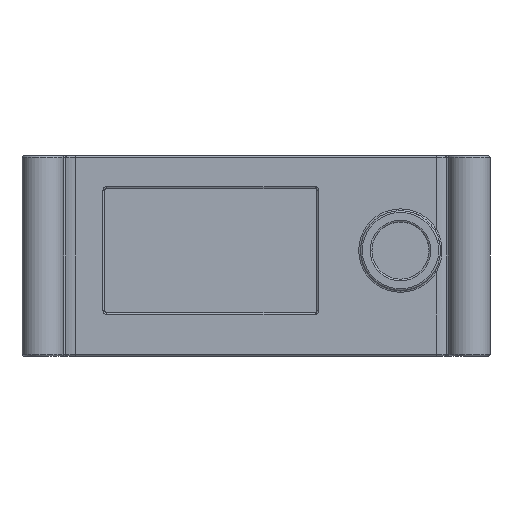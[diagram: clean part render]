
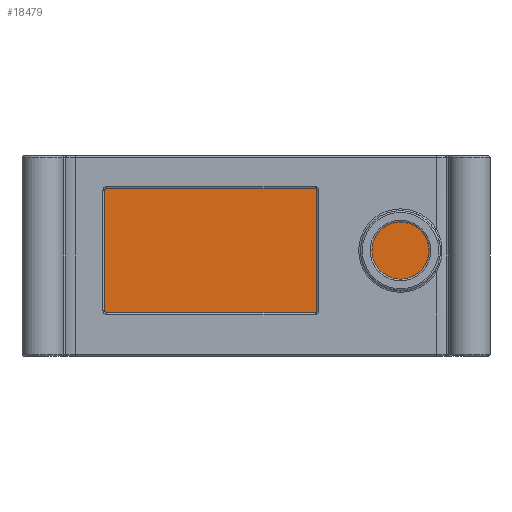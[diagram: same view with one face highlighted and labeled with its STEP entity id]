
A CAD part, left-side view. The second image highlights one B-rep face of the part: STEP entity #18479.
In plain terms, the highlighted planar face has unit normal (-1, 0, 0).
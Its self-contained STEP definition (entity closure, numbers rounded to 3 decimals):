
#2609 = CYLINDRICAL_SURFACE('',#2610,0.4);
#2610 = AXIS2_PLACEMENT_3D('',#2611,#2612,#2613);
#2611 = CARTESIAN_POINT('',(-151.6,-40.,44.));
#2612 = DIRECTION('',(0.,1.,0.));
#2613 = DIRECTION('',(0.,-0.,1.));
#8803 = VERTEX_POINT('',#8804);
#8804 = CARTESIAN_POINT('',(-152.,40.,44.));
#8862 = CYLINDRICAL_SURFACE('',#8863,5.);
#8863 = AXIS2_PLACEMENT_3D('',#8864,#8865,#8866);
#8864 = CARTESIAN_POINT('',(-157.,40.,2.4));
#8865 = DIRECTION('',(0.,0.,1.));
#8866 = DIRECTION('',(1.,0.,0.));
#8878 = VERTEX_POINT('',#8879);
#8879 = CARTESIAN_POINT('',(-152.,-40.,44.));
#8899 = EDGE_CURVE('',#8878,#8803,#8900,.T.);
#8900 = SURFACE_CURVE('',#8901,(#8905,#8912),.PCURVE_S1.);
#8901 = LINE('',#8902,#8903);
#8902 = CARTESIAN_POINT('',(-152.,-40.,44.));
#8903 = VECTOR('',#8904,1.);
#8904 = DIRECTION('',(0.,1.,0.));
#8905 = PCURVE('',#2609,#8906);
#8906 = DEFINITIONAL_REPRESENTATION('',(#8907),#8911);
#8907 = LINE('',#8908,#8909);
#8908 = CARTESIAN_POINT('',(-1.571,0.));
#8909 = VECTOR('',#8910,1.);
#8910 = DIRECTION('',(-0.,1.));
#8911 = ( GEOMETRIC_REPRESENTATION_CONTEXT(2) 
PARAMETRIC_REPRESENTATION_CONTEXT() REPRESENTATION_CONTEXT('2D SPACE',''
  ) );
#8912 = PCURVE('',#8913,#8918);
#8913 = PLANE('',#8914);
#8914 = AXIS2_PLACEMENT_3D('',#8915,#8916,#8917);
#8915 = CARTESIAN_POINT('',(-152.,-45.,2.4));
#8916 = DIRECTION('',(1.,0.,0.));
#8917 = DIRECTION('',(0.,0.,1.));
#8918 = DEFINITIONAL_REPRESENTATION('',(#8919),#8923);
#8919 = LINE('',#8920,#8921);
#8920 = CARTESIAN_POINT('',(41.6,-5.));
#8921 = VECTOR('',#8922,1.);
#8922 = DIRECTION('',(0.,-1.));
#8923 = ( GEOMETRIC_REPRESENTATION_CONTEXT(2) 
PARAMETRIC_REPRESENTATION_CONTEXT() REPRESENTATION_CONTEXT('2D SPACE',''
  ) );
#9022 = CYLINDRICAL_SURFACE('',#9023,5.);
#9023 = AXIS2_PLACEMENT_3D('',#9024,#9025,#9026);
#9024 = CARTESIAN_POINT('',(-157.,-40.,2.4));
#9025 = DIRECTION('',(0.,0.,1.));
#9026 = DIRECTION('',(1.,0.,0.));
#18406 = EDGE_CURVE('',#18407,#8803,#18409,.T.);
#18407 = VERTEX_POINT('',#18408);
#18408 = CARTESIAN_POINT('',(-152.,40.,2.8));
#18409 = SURFACE_CURVE('',#18410,(#18414,#18421),.PCURVE_S1.);
#18410 = LINE('',#18411,#18412);
#18411 = CARTESIAN_POINT('',(-152.,40.,2.4));
#18412 = VECTOR('',#18413,1.);
#18413 = DIRECTION('',(0.,0.,1.));
#18414 = PCURVE('',#8862,#18415);
#18415 = DEFINITIONAL_REPRESENTATION('',(#18416),#18420);
#18416 = LINE('',#18417,#18418);
#18417 = CARTESIAN_POINT('',(0.,0.));
#18418 = VECTOR('',#18419,1.);
#18419 = DIRECTION('',(0.,1.));
#18420 = ( GEOMETRIC_REPRESENTATION_CONTEXT(2) 
PARAMETRIC_REPRESENTATION_CONTEXT() REPRESENTATION_CONTEXT('2D SPACE',''
  ) );
#18421 = PCURVE('',#8913,#18422);
#18422 = DEFINITIONAL_REPRESENTATION('',(#18423),#18427);
#18423 = LINE('',#18424,#18425);
#18424 = CARTESIAN_POINT('',(0.,-85.));
#18425 = VECTOR('',#18426,1.);
#18426 = DIRECTION('',(1.,0.));
#18427 = ( GEOMETRIC_REPRESENTATION_CONTEXT(2) 
PARAMETRIC_REPRESENTATION_CONTEXT() REPRESENTATION_CONTEXT('2D SPACE',''
  ) );
#18479 = ADVANCED_FACE('',(#18480),#8913,.F.);
#18480 = FACE_BOUND('',#18481,.F.);
#18481 = EDGE_LOOP('',(#18482,#18483,#18484,#18507));
#18482 = ORIENTED_EDGE('',*,*,#18406,.T.);
#18483 = ORIENTED_EDGE('',*,*,#8899,.F.);
#18484 = ORIENTED_EDGE('',*,*,#18485,.F.);
#18485 = EDGE_CURVE('',#18486,#8878,#18488,.T.);
#18486 = VERTEX_POINT('',#18487);
#18487 = CARTESIAN_POINT('',(-152.,-40.,2.8));
#18488 = SURFACE_CURVE('',#18489,(#18493,#18500),.PCURVE_S1.);
#18489 = LINE('',#18490,#18491);
#18490 = CARTESIAN_POINT('',(-152.,-40.,2.4));
#18491 = VECTOR('',#18492,1.);
#18492 = DIRECTION('',(0.,0.,1.));
#18493 = PCURVE('',#8913,#18494);
#18494 = DEFINITIONAL_REPRESENTATION('',(#18495),#18499);
#18495 = LINE('',#18496,#18497);
#18496 = CARTESIAN_POINT('',(0.,-5.));
#18497 = VECTOR('',#18498,1.);
#18498 = DIRECTION('',(1.,0.));
#18499 = ( GEOMETRIC_REPRESENTATION_CONTEXT(2) 
PARAMETRIC_REPRESENTATION_CONTEXT() REPRESENTATION_CONTEXT('2D SPACE',''
  ) );
#18500 = PCURVE('',#9022,#18501);
#18501 = DEFINITIONAL_REPRESENTATION('',(#18502),#18506);
#18502 = LINE('',#18503,#18504);
#18503 = CARTESIAN_POINT('',(-0.,0.));
#18504 = VECTOR('',#18505,1.);
#18505 = DIRECTION('',(-0.,1.));
#18506 = ( GEOMETRIC_REPRESENTATION_CONTEXT(2) 
PARAMETRIC_REPRESENTATION_CONTEXT() REPRESENTATION_CONTEXT('2D SPACE',''
  ) );
#18507 = ORIENTED_EDGE('',*,*,#18508,.T.);
#18508 = EDGE_CURVE('',#18486,#18407,#18509,.T.);
#18509 = SURFACE_CURVE('',#18510,(#18514,#18521),.PCURVE_S1.);
#18510 = LINE('',#18511,#18512);
#18511 = CARTESIAN_POINT('',(-152.,-40.,2.8));
#18512 = VECTOR('',#18513,1.);
#18513 = DIRECTION('',(0.,1.,0.));
#18514 = PCURVE('',#8913,#18515);
#18515 = DEFINITIONAL_REPRESENTATION('',(#18516),#18520);
#18516 = LINE('',#18517,#18518);
#18517 = CARTESIAN_POINT('',(0.4,-5.));
#18518 = VECTOR('',#18519,1.);
#18519 = DIRECTION('',(0.,-1.));
#18520 = ( GEOMETRIC_REPRESENTATION_CONTEXT(2) 
PARAMETRIC_REPRESENTATION_CONTEXT() REPRESENTATION_CONTEXT('2D SPACE',''
  ) );
#18521 = PCURVE('',#18522,#18527);
#18522 = CYLINDRICAL_SURFACE('',#18523,0.4);
#18523 = AXIS2_PLACEMENT_3D('',#18524,#18525,#18526);
#18524 = CARTESIAN_POINT('',(-152.4,-40.,2.8));
#18525 = DIRECTION('',(0.,1.,0.));
#18526 = DIRECTION('',(1.,0.,-0.));
#18527 = DEFINITIONAL_REPRESENTATION('',(#18528),#18532);
#18528 = LINE('',#18529,#18530);
#18529 = CARTESIAN_POINT('',(0.,0.));
#18530 = VECTOR('',#18531,1.);
#18531 = DIRECTION('',(0.,1.));
#18532 = ( GEOMETRIC_REPRESENTATION_CONTEXT(2) 
PARAMETRIC_REPRESENTATION_CONTEXT() REPRESENTATION_CONTEXT('2D SPACE',''
  ) );
